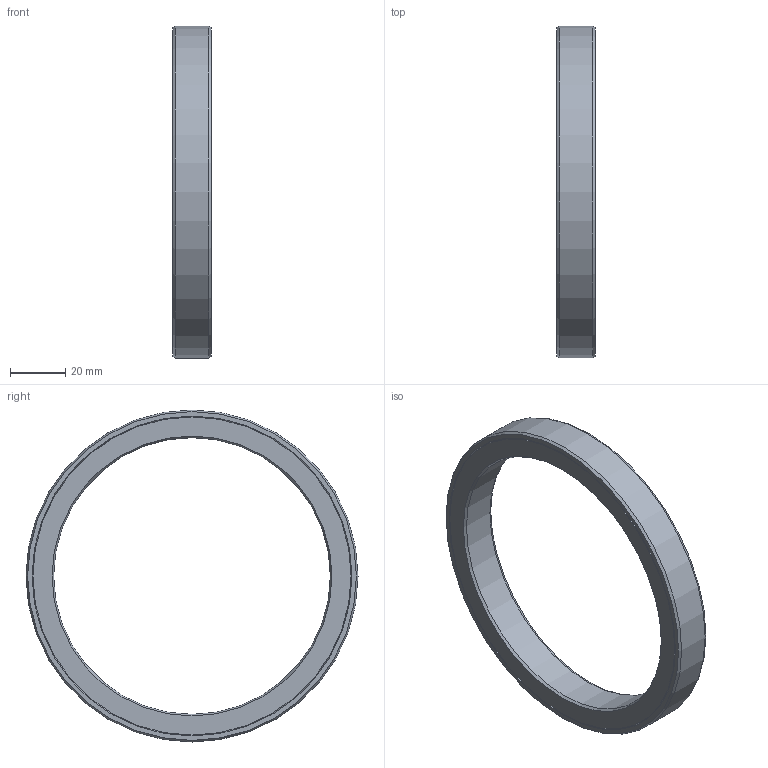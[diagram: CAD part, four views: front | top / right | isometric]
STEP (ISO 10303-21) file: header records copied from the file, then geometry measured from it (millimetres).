
FILE_DESCRIPTION(/* description */ (''),/* implementation_level */ '2;1');
FILE_NAME(/* name */ '301282 L 100x120x14.stp',/* time_stamp */ '2016-12-15T10:08:25+01:00',/* author */ (''),/* organization */ (''),/* preprocessor_version */ 'ST-DEVELOPER v15',/* originating_system */ 'SIEMENS PLM Software NX 8.5',/* authorisation */ '');
FILE_SCHEMA (('CONFIG_CONTROL_DESIGN'));
Length unit declared in the file: millimetre
Products named in the file (1): ATE0000122_01
Bounding box: 14 x 120 x 120 mm (x, y, z)
Volume: 46373.1 mm3; surface area: 26494.4 mm2
Topology: 2 solids, 2 shells, 18 faces, 34 edges, 20 vertices
Faces by surface type: cone 12, plane 4, cylinder 2
Full cylindrical faces by diameter (mm): 100 x1, 120 x1
Entity records: 454 total; most frequent: DIRECTION 74, CARTESIAN_POINT 55, AXIS2_PLACEMENT_3D 37, FACE_BOUND 36, EDGE_LOOP 36, ORIENTED_EDGE 36, ADVANCED_FACE 18, VERTEX_POINT 18
